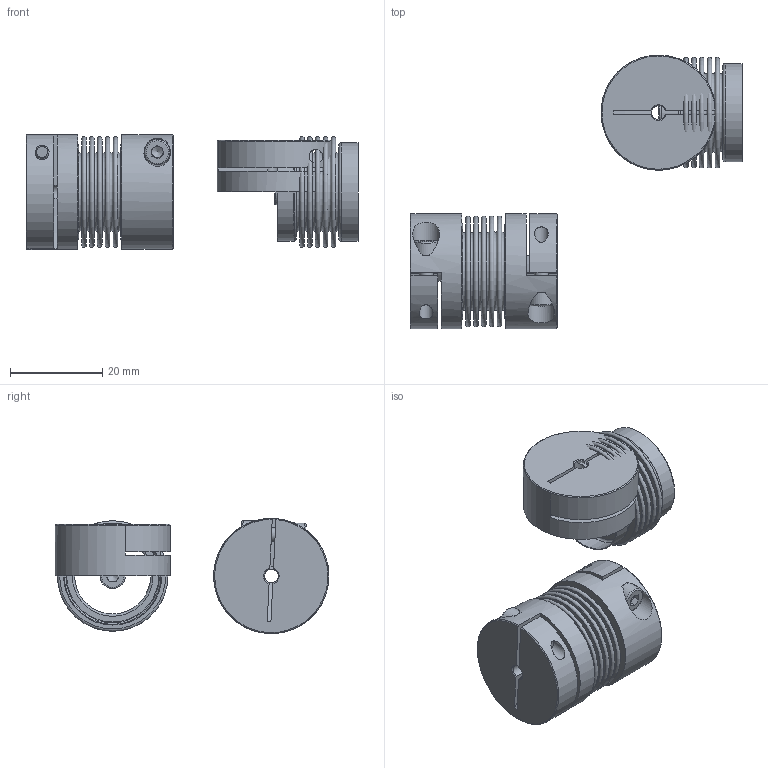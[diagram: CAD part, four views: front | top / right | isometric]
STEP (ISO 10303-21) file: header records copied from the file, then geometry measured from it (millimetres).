
FILE_DESCRIPTION( ( 'Unknown' ), '1' );
FILE_NAME( 'C:/Dokumente und Einstellungen/Sven/Desktop/cad - homepage/KB2/KB2-20-32.stp', 'Unknown', ( 'Unknown' ), ( 'Unknown' ), 'XStep 1.0', 'Unknown', ' ' );
FILE_SCHEMA( ( 'automotive_design' ) );
Length unit declared in the file: millimetre
Products named in the file (4): Assem1; KN20_Standard; Socket Head Cap Screw_DIN_DIN 912 M3 x 10 --- 10N; BK20_Standard
Bounding box: 72.06 x 59.43 x 25 mm (x, y, z)
Volume: 16357.9 mm3; surface area: 22351.9 mm2
Topology: 8 solids, 8 shells, 238 faces, 500 edges, 323 vertices
Faces by surface type: plane 124, torus 58, cylinder 41, cone 15
Full cylindrical faces by diameter (mm): 3 x9, 3.2 x3, 5.5 x3, 21 x4, 21.3 x4, 25 x3
Entity records: 2912 total; most frequent: CARTESIAN_POINT 491, DIRECTION 431, ORIENTED_EDGE 288, AXIS2_PLACEMENT_3D 194, EDGE_LOOP 171, EDGE_CURVE 144, FACE_OUTER_BOUND 135, VERTEX_POINT 118
